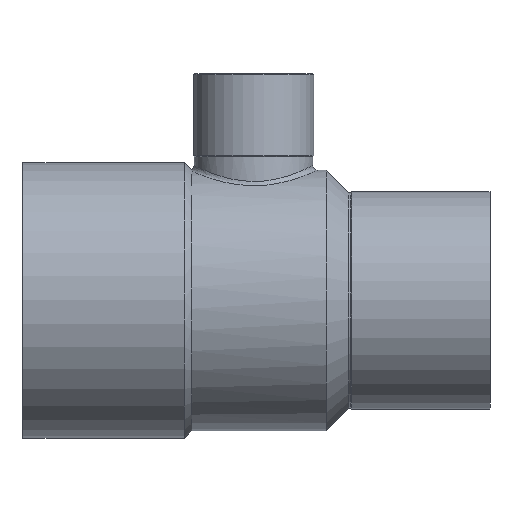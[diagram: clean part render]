
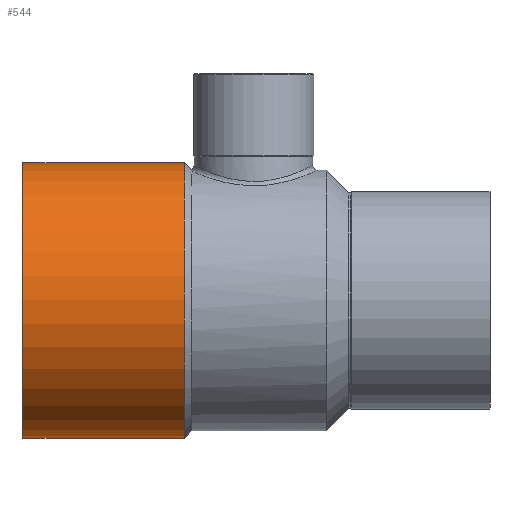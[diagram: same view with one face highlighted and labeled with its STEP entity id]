
A CAD part, top view. The second image highlights one B-rep face of the part: STEP entity #544.
In plain terms, the highlighted cylindrical face has radius 28.575 mm (diameter 57.15 mm), a partial arc.
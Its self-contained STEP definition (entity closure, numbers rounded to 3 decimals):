
#459=CARTESIAN_POINT('',(-14.379,28.575,0.0));
#460=VERTEX_POINT('',#459);
#469=CARTESIAN_POINT('',(-14.379,-28.575,0.));
#470=VERTEX_POINT('',#469);
#471=CARTESIAN_POINT('',(-14.379,0.0,0.0));
#472=DIRECTION('',(1.0,0.0,0.0));
#473=DIRECTION('',(0.0,1.0,0.0));
#474=AXIS2_PLACEMENT_3D('',#471,#472,#473);
#475=CIRCLE('',#474,28.575);
#476=EDGE_CURVE('',#460,#470,#475,.T.);
#513=CARTESIAN_POINT('',(-31.189,0.0,0.0));
#514=DIRECTION('',(1.0,0.0,0.0));
#515=DIRECTION('',(0.0,1.0,0.0));
#516=AXIS2_PLACEMENT_3D('',#513,#514,#515);
#517=CYLINDRICAL_SURFACE('',#516,28.575);
#518=CARTESIAN_POINT('',(-47.8,28.575,0.));
#519=VERTEX_POINT('',#518);
#520=CARTESIAN_POINT('',(-47.8,28.575,0.));
#521=DIRECTION('',(1.0,0.0,0.0));
#522=VECTOR('',#521,33.421);
#523=LINE('',#520,#522);
#524=EDGE_CURVE('',#519,#460,#523,.T.);
#525=ORIENTED_EDGE('',*,*,#524,.F.);
#526=CARTESIAN_POINT('',(-47.8,-28.575,0.));
#527=VERTEX_POINT('',#526);
#528=CARTESIAN_POINT('',(-47.8,0.0,0.0));
#529=DIRECTION('',(-1.0,0.0,0.0));
#530=DIRECTION('',(0.0,-1.0,0.0));
#531=AXIS2_PLACEMENT_3D('',#528,#529,#530);
#532=CIRCLE('',#531,28.575);
#533=EDGE_CURVE('',#527,#519,#532,.T.);
#534=ORIENTED_EDGE('',*,*,#533,.F.);
#535=CARTESIAN_POINT('',(-14.379,-28.575,0.));
#536=DIRECTION('',(-1.0,0.0,0.0));
#537=VECTOR('',#536,33.421);
#538=LINE('',#535,#537);
#539=EDGE_CURVE('',#470,#527,#538,.T.);
#540=ORIENTED_EDGE('',*,*,#539,.F.);
#541=ORIENTED_EDGE('',*,*,#476,.F.);
#542=EDGE_LOOP('',(#525,#534,#540,#541));
#543=FACE_OUTER_BOUND('',#542,.T.);
#544=ADVANCED_FACE('',(#543),#517,.T.);
